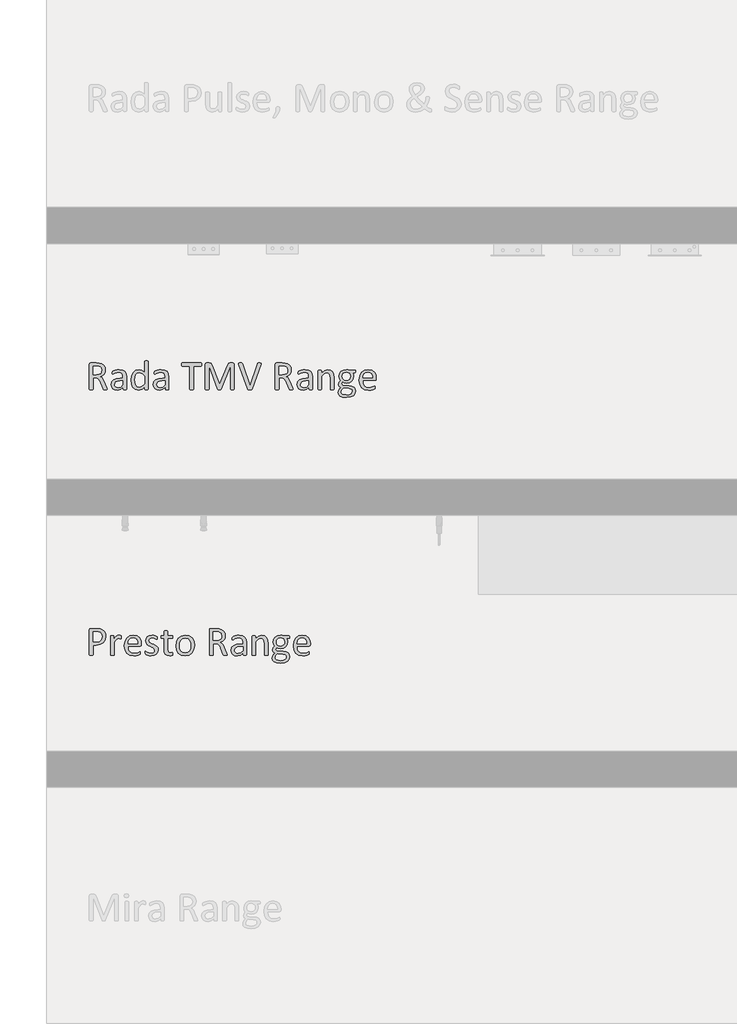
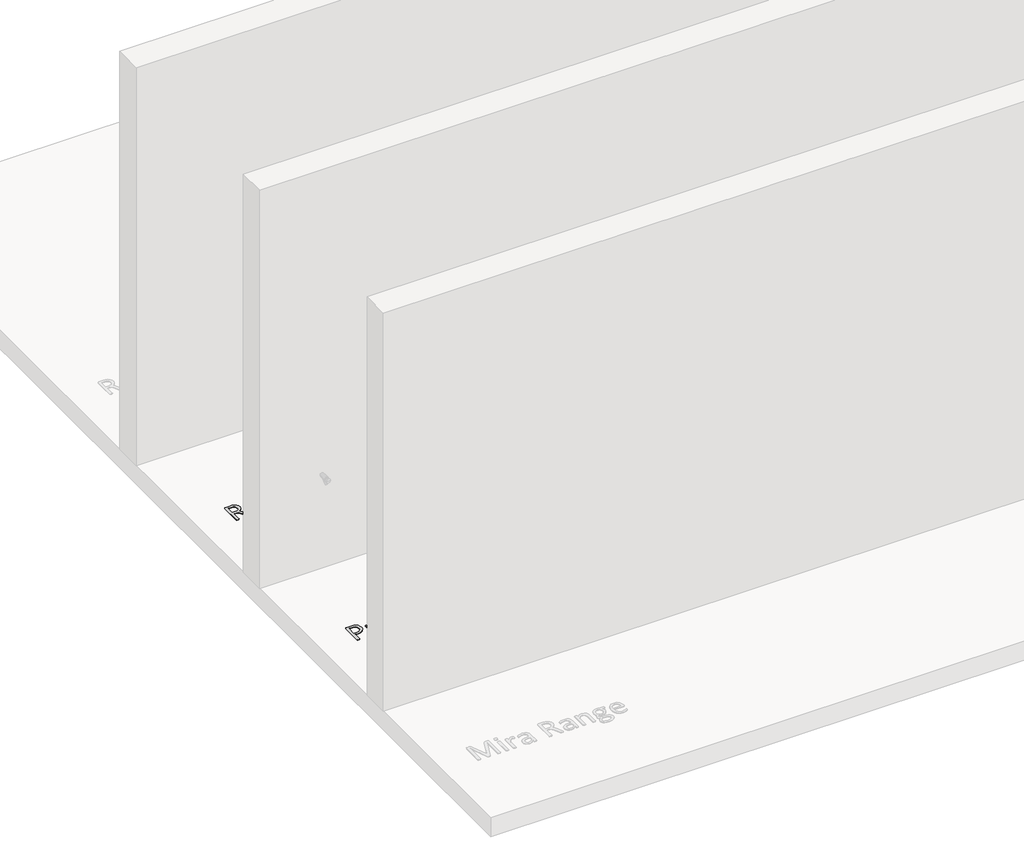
# One storey, part 2 of 3: 2 proxies.
"""IFC4 building model written with IfcOpenShell, lengths in millimetres."""

from ifc_helpers import new_model, si_unit, origin, origin_with_axes, place, context, project, spatial, polyline, outline, extrude, element, save

model = new_model("IFC4")

# Units and contexts
model_context = context("Model", 3, world=origin())
ifc_project = project(units=[si_unit("LENGTHUNIT", "METRE", prefix="MILLI")], contexts=[model_context])

# Site, building, storey
site = spatial("IfcSite", under=ifc_project)
building = spatial("IfcBuilding", under=site)
storey = spatial("IfcBuildingStorey", under=building, Name="1 Coarse & Medium", Elevation=0.0)

# Proxies
placement = place(None, origin())
element("IfcBuildingElementProxy", 1, Name="200mm Arial", ObjectType="200mm Arial", at=placement, inside=storey, context=model_context, shape_type="SweptSolid", body=[
    extrude(outline(polyline([(-2097.5056259, -8957.1511378), (-2101.7064456, -8980.050728), (-2113.74538, -8997.443146), (-2132.9564456, -9008.5599493), (-2160.1080849, -9012.4790067), (-2179.472839, -9012.4790067), (-2179.472839, -9073.8519575), (-2180.0619784, -9075.6706051), (-2181.9318554, -9076.925728), (-2185.415462, -9077.7197854), (-2190.9482489, -9078.0527772), (-2196.4810358, -9077.7197854), (-2200.0158718, -9076.925728), (-2201.8857489, -9075.6962198), (-2202.4236587, -9073.8519575), (-2202.4236587, -8917.243351), (-2199.6572653, -8909.7894575), (-2193.4584948, -8907.5609739), (-2156.8806259, -8907.5609739), (-2146.2761177, -8908.0220395), (-2134.2627981, -8909.9943755), (-2120.1234538, -8915.6040067), (-2107.9308308, -8925.7218346), (-2100.2207899, -8939.6562608), (-2097.5056259, -8957.1511378)]), holes=[polyline([(-2120.4564456, -8958.9441706), (-2124.4011177, -8942.2689657), (-2134.160339, -8932.3048264), (-2146.1736587, -8928.1296214), (-2158.2638227, -8927.2331051), (-2179.472839, -8927.2331051), (-2179.472839, -8992.8068755), (-2158.7761177, -8992.8068755), (-2141.4861587, -8990.2710149), (-2129.9339046, -8983.2525723), (-2122.8642325, -8972.5199903), (-2120.4564456, -8958.9441706)])]), origin_with_axes(), (0.0, 0.0, 1.0), 5.0),
    extrude(outline(polyline([(-1999.1449702, -8963.2986788), (-1999.273044, -8967.9605641), (-1999.785339, -8970.9831051), (-2000.7330849, -8972.6992936), (-2002.3211997, -8973.2884329), (-2004.8058308, -8972.6992936), (-2008.1101341, -8971.5210149), (-2012.2341095, -8970.3939657), (-2017.1777571, -8969.8560559), (-2023.4277571, -8971.2648674), (-2029.8570604, -8975.8755231), (-2036.9011177, -8984.3796214), (-2045.0466095, -8997.3663018), (-2045.0466095, -9074.0568755), (-2045.6101341, -9075.7986788), (-2047.4287817, -9077.028187), (-2050.8867735, -9077.7966296), (-2056.5732489, -9078.0527772), (-2062.1572653, -9077.7966296), (-2065.6921013, -9077.028187), (-2067.5107489, -9075.7986788), (-2067.9974292, -9074.0568755), (-2067.9974292, -8957.4585149), (-2067.5875931, -8955.7167116), (-2065.9226341, -8954.4359739), (-2062.7207899, -8953.6675313), (-2057.5466095, -8953.4626133), (-2052.4748882, -8953.6675313), (-2049.3498882, -8954.4359739), (-2047.7361587, -8955.7167116), (-2047.2494784, -8957.4585149), (-2047.2494784, -8974.4667116), (-2038.3867735, -8962.3253182), (-2030.523044, -8954.9226542), (-2023.1972243, -8951.2085149), (-2015.8457899, -8950.1839247), (-2012.1060358, -8950.363228), (-2007.7002981, -8951.0548264), (-2003.5507079, -8952.2074903), (-2000.938003, -8953.4626133), (-1999.1961997, -8958.6880231), (-1999.1449702, -8963.2986788)])), origin_with_axes(), (0.0, 0.0, 1.0), 5.0),
    extrude(outline(polyline([(-1871.2761177, -9009.6613837), (-1873.8119784, -9016.8847444), (-1879.6265276, -9019.0363837), (-1956.5220194, -9019.0363837), (-1954.6009128, -9037.9913018), (-1948.222839, -9052.4380231), (-1936.5937407, -9061.7105641), (-1919.0732489, -9064.9380231), (-1904.5240686, -9063.4267526), (-1893.4584948, -9060.0199903), (-1885.7996833, -9056.613228), (-1881.2658718, -9055.1019575), (-1879.6777571, -9055.5374083), (-1878.5763227, -9056.818146), (-1878.0127981, -9059.2003182), (-1877.8334948, -9062.9400723), (-1877.9615686, -9065.680851), (-1878.2945604, -9067.755646), (-1878.9349292, -9069.4206051), (-1880.0875931, -9070.8294165), (-1884.2627981, -9073.3140477), (-1893.2535768, -9076.8488837), (-1906.0609538, -9079.948269), (-1921.5834948, -9081.3314657), (-1946.6091095, -9077.2331051), (-1964.6675112, -9065.0404821), (-1975.7330849, -9044.7279821), (-1979.472839, -9016.3724493), (-1975.5537817, -8988.7085149), (-1964.2576751, -8967.9093346), (-1946.4298063, -8954.7689657), (-1923.017921, -8950.1839247), (-1899.4523472, -8954.6152772), (-1883.4431259, -8966.5517526), (-1874.2218145, -8984.1490887), (-1871.2761177, -9005.7167116), (-1871.2761177, -9009.6613837)]), holes=[polyline([(-1894.2269374, -9002.6429411), (-1895.8854927, -8987.6006768), (-1901.5783718, -8976.1829001), (-1911.1646936, -8968.9787505), (-1924.5035768, -8966.5773674), (-1938.1562407, -8969.5486788), (-1947.9666915, -8977.4636378), (-1954.0886177, -8988.9646624), (-1956.5220194, -9002.6429411), (-1894.2269374, -9002.6429411)])]), origin_with_axes(), (0.0, 0.0, 1.0), 5.0),
    extrude(outline(polyline([(-1763.0793964, -9043.0117936), (-1766.4861587, -9059.3283919), (-1776.1941505, -9071.3929411), (-1791.1787817, -9078.8212198), (-1810.313003, -9081.3314657), (-1822.5824702, -9080.153187), (-1833.0076751, -9077.1562608), (-1840.8201751, -9073.3652772), (-1845.5076751, -9069.8048264), (-1847.6593145, -9066.0394575), (-1848.3252981, -9060.0712198), (-1848.0691505, -9056.2033919), (-1847.4031669, -9053.6675313), (-1846.2761177, -9052.2587198), (-1844.6367735, -9051.823269), (-1840.3847243, -9053.8724493), (-1833.4175112, -9058.380646), (-1823.6070604, -9062.8888428), (-1810.62038, -9064.9380231), (-1800.6306259, -9063.6829001), (-1792.8693554, -9059.9687608), (-1787.7976341, -9053.7187608), (-1786.0302161, -9044.7535969), (-1788.5660768, -9036.2751133), (-1795.3027571, -9030.153187), (-1804.7033718, -9025.4400723), (-1815.4615686, -9021.1367936), (-1826.2966095, -9016.0394575), (-1835.7740686, -9009.0722444), (-1842.5107489, -8999.2617936), (-1845.0466095, -8985.5835149), (-1842.3314456, -8972.135769), (-1834.1859538, -8960.8652772), (-1820.6101341, -8953.1040067), (-1801.5527571, -8950.1839247), (-1792.0240686, -8951.0548264), (-1783.4175112, -8953.2576952), (-1776.8601341, -8956.1265477), (-1772.7617735, -8958.8417116), (-1770.9175112, -8960.7884329), (-1770.2515276, -8962.4790067), (-1769.8416915, -8964.8099493), (-1769.6367735, -8968.2167116), (-1769.8416915, -8971.930851), (-1770.5076751, -8974.5179411), (-1771.660339, -8975.9779821), (-1776.7064456, -8974.8509329), (-1782.6746833, -8971.4954001), (-1791.2812407, -8968.1398674), (-1802.5773472, -8966.5773674), (-1812.6183308, -8967.8837198), (-1819.7392325, -8971.5978592), (-1823.9400522, -8977.2843346), (-1825.3744784, -8984.4052362), (-1822.6593145, -8993.0886378), (-1815.5640276, -8999.2617936), (-1805.5998882, -9004.0261378), (-1794.2269374, -9008.380646), (-1782.7771423, -9013.4267526), (-1772.7617735, -9020.1890477), (-1765.7433308, -9029.743351), (-1763.0793964, -9043.0117936)])), origin_with_axes(), (0.0, 0.0, 1.0), 5.0),
    extrude(outline(polyline([(-1671.2761177, -9066.2699903), (-1671.7884128, -9072.6736788), (-1673.3509128, -9076.1572854), (-1676.4759128, -9078.2576952), (-1681.2146423, -9079.8714247), (-1686.875503, -9080.9216296), (-1692.8437407, -9081.3314657), (-1708.4431259, -9078.8468346), (-1719.0732489, -9071.3417116), (-1725.1183308, -9058.6111788), (-1727.0138227, -9040.3990887), (-1727.0138227, -8969.8560559), (-1742.5875931, -8969.8560559), (-1745.5845194, -8967.9349493), (-1746.6859538, -8961.7105641), (-1746.3785768, -8957.8939657), (-1745.5845194, -8955.3068755), (-1744.2781669, -8953.8724493), (-1742.4851341, -8953.4626133), (-1727.0138227, -8953.4626133), (-1727.0138227, -8924.9277772), (-1726.5271423, -8923.2115887), (-1724.7084948, -8921.8027772), (-1721.1736587, -8920.9318755), (-1715.5896423, -8920.675728), (-1709.9031669, -8920.9318755), (-1706.4451751, -8921.8027772), (-1704.6265276, -8923.2115887), (-1704.063003, -8924.9277772), (-1704.063003, -8953.4626133), (-1675.3744784, -8953.4626133), (-1673.6582899, -8953.8724493), (-1672.3519374, -8955.3068755), (-1671.5322653, -8957.8939657), (-1671.2761177, -8961.7105641), (-1672.4031669, -8967.9349493), (-1675.3744784, -8969.8560559), (-1704.063003, -8969.8560559), (-1704.063003, -9036.6593346), (-1700.6562407, -9055.3324903), (-1695.8983001, -9060.0776235), (-1688.438003, -9061.6593346), (-1683.3406669, -9061.0701952), (-1679.37038, -9059.840687), (-1676.3734538, -9058.5855641), (-1674.1449702, -9057.97081), (-1671.5322653, -9062.1204001), (-1671.2761177, -9066.2699903)])), origin_with_axes(), (0.0, 0.0, 1.0), 5.0),
    extrude(outline(polyline([(-1533.5711997, -9014.4769575), (-1537.3621833, -9041.3468346), (-1548.7095194, -9062.5046214), (-1567.6132079, -9076.3622034), (-1593.9195604, -9081.3314657), (-1619.2781669, -9076.9513428), (-1637.3109538, -9064.22081), (-1648.0691505, -9043.9339247), (-1651.6039866, -9016.8847444), (-1647.8642325, -8990.0148674), (-1636.5937407, -8968.8826952), (-1617.7668964, -8955.1019575), (-1591.4093145, -8950.1839247), (-1566.0250931, -8954.5640477), (-1547.9923063, -8967.2945805), (-1537.18288, -8987.5814657), (-1533.5711997, -9014.4769575)]), holes=[polyline([(-1556.5220194, -9016.0138428), (-1558.2894374, -8998.2115887), (-1564.1039866, -8983.5087198), (-1575.0414866, -8973.5189657), (-1592.2802161, -8969.8560559), (-1608.648044, -8973.2115887), (-1619.9185358, -8982.6890477), (-1626.5015276, -8997.1869985), (-1628.6531669, -9015.5015477), (-1626.8857489, -9033.4062608), (-1621.0199702, -9048.0579001), (-1610.0056259, -9057.9964247), (-1592.7925112, -9061.6593346), (-1576.4759128, -9058.3038018), (-1565.1285768, -9048.903187), (-1558.5968145, -9034.4564657), (-1556.5220194, -9016.0138428)])]), origin_with_axes(), (0.0, 0.0, 1.0), 5.0),
    extrude(outline(polyline([(-1325.938003, -9073.903187), (-1326.3222243, -9075.6962198), (-1328.0127981, -9077.0025723), (-1331.7013227, -9077.7966296), (-1338.0281669, -9078.0527772), (-1343.5865686, -9077.7966296), (-1347.0701751, -9076.9513428), (-1349.0937407, -9075.3376133), (-1350.3232489, -9072.7249083), (-1365.9482489, -9033.278187), (-1371.6091095, -9020.9318755), (-1378.4738636, -9011.2238837), (-1387.8232489, -9004.8970395), (-1400.7843145, -9002.6429411), (-1415.5384128, -9002.6429411), (-1415.5384128, -9073.903187), (-1416.1275522, -9075.7218346), (-1417.9974292, -9076.9513428), (-1421.4810358, -9077.7197854), (-1427.0138227, -9078.0527772), (-1432.5466095, -9077.7197854), (-1436.0814456, -9076.925728), (-1437.9513227, -9075.6962198), (-1438.4892325, -9073.8519575), (-1438.4892325, -8916.7310559), (-1435.8509128, -8909.5845395), (-1430.1900522, -8907.5609739), (-1394.6367735, -8907.5609739), (-1384.1347243, -8907.8939657), (-1376.5527571, -8908.6367936), (-1359.4164866, -8914.0158919), (-1346.9164866, -8923.3908919), (-1339.3601341, -8936.403187), (-1336.8498882, -8952.5404821), (-1339.0783718, -8967.9093346), (-1345.5332899, -8979.9226542), (-1355.6511177, -8988.9390477), (-1368.8683308, -8995.4195805), (-1361.2351341, -9000.055851), (-1354.8570604, -9006.7669165), (-1349.2986587, -9015.7576952), (-1344.0220194, -9027.2331051), (-1328.8068554, -9064.3744985), (-1326.4502981, -9070.9318755), (-1325.938003, -9073.903187)]), holes=[polyline([(-1359.8007079, -8954.9994985), (-1364.1808308, -8938.5548264), (-1370.0530132, -8932.7786993), (-1378.9093145, -8928.8724493), (-1386.1839046, -8927.6173264), (-1396.8396423, -8927.2331051), (-1415.5384128, -8927.2331051), (-1415.5384128, -8982.97081), (-1393.8683308, -8982.97081), (-1378.7043964, -8980.8704001), (-1368.0486587, -8974.9790067), (-1361.7986587, -8966.090687), (-1359.8007079, -8954.9994985)])]), origin_with_axes(), (0.0, 0.0, 1.0), 5.0),
    extrude(outline(polyline([(-1202.4236587, -9074.1081051), (-1203.5507079, -9076.4902772), (-1206.6244784, -9077.6685559), (-1212.3621833, -9078.0527772), (-1218.1767325, -9077.6685559), (-1221.3273472, -9076.4902772), (-1222.3007079, -9074.1081051), (-1222.3007079, -9062.3253182), (-1239.5650522, -9075.9523674), (-1259.7494784, -9081.3314657), (-1276.6808308, -9078.8980641), (-1289.5650522, -9071.8540067), (-1297.8386177, -9060.5322854), (-1300.7843145, -9045.2658919), (-1296.7115686, -9027.8990887), (-1285.0312407, -9015.6552362), (-1266.4093145, -9008.3550313), (-1241.6142325, -9005.9216296), (-1225.3744784, -9005.9216296), (-1225.3744784, -8996.1367936), (-1226.8089046, -8983.3294165), (-1231.4195604, -8974.0568755), (-1239.6418964, -8968.4728592), (-1252.0650522, -8966.5773674), (-1266.2812407, -8968.6265477), (-1277.2955849, -8973.1347444), (-1285.210544, -8977.6429411), (-1289.9236587, -8979.6921214), (-1291.767921, -8979.1542116), (-1293.125503, -8977.5148674), (-1293.9707899, -8974.6972444), (-1294.2269374, -8970.9318755), (-1293.7658718, -8965.5527772), (-1291.5117735, -8961.7874083), (-1285.3642325, -8957.9451952), (-1275.3232489, -8954.1542116), (-1262.9000931, -8951.3109739), (-1249.2986587, -8950.1839247), (-1227.5261177, -8953.0783919), (-1213.0025522, -8961.5312608), (-1204.9339046, -8975.3376133), (-1202.4236587, -8994.5999083), (-1202.4236587, -9074.1081051)]), holes=[polyline([(-1225.3744784, -9022.3150723), (-1243.6121833, -9022.3150723), (-1258.8273472, -9023.8263428), (-1269.5599292, -9028.28331), (-1275.835544, -9035.3529821), (-1277.8334948, -9044.8560559), (-1276.3990686, -9053.1296214), (-1272.0957899, -9059.5076952), (-1265.205421, -9063.5804411), (-1256.0097243, -9064.9380231), (-1240.4359538, -9060.6091296), (-1225.3744784, -9047.3663018), (-1225.3744784, -9022.3150723)])]), origin_with_axes(), (0.0, 0.0, 1.0), 5.0),
    extrude(outline(polyline([(-1064.7187407, -9074.005646), (-1065.2822653, -9075.7474493), (-1067.1009128, -9077.0025723), (-1070.5589046, -9077.7966296), (-1076.142921, -9078.0527772), (-1081.8293964, -9077.7966296), (-1085.2873882, -9077.028187), (-1087.1060358, -9075.7986788), (-1087.6695604, -9074.005646), (-1087.6695604, -9005.5630231), (-1089.1808308, -8989.4769575), (-1093.5609538, -8978.9492936), (-1101.0148472, -8972.1869985), (-1111.5937407, -8969.8560559), (-1127.1418964, -8975.568146), (-1143.4072653, -8992.34581), (-1143.4072653, -9074.005646), (-1143.9707899, -9075.7986788), (-1145.7894374, -9077.028187), (-1149.2474292, -9077.7966296), (-1154.9339046, -9078.0527772), (-1160.517921, -9077.7966296), (-1164.0527571, -9077.028187), (-1165.8714046, -9075.7986788), (-1166.3580849, -9074.0568755), (-1166.3580849, -8957.4585149), (-1165.9482489, -8955.7167116), (-1164.2832899, -8954.4359739), (-1161.0814456, -8953.6675313), (-1155.9072653, -8953.4626133), (-1150.835544, -8953.6675313), (-1147.710544, -8954.4359739), (-1146.0968145, -8955.7167116), (-1145.6101341, -8957.4585149), (-1145.6101341, -8972.8785969), (-1126.0148472, -8955.6398674), (-1106.3171013, -8950.1839247), (-1086.7474292, -8954.1798264), (-1073.8888227, -8964.8611788), (-1066.8447653, -8980.5117936), (-1064.7187407, -9002.0794165), (-1064.7187407, -9074.005646)])), origin_with_axes(), (0.0, 0.0, 1.0), 5.0),
    extrude(outline(polyline([(-927.0138227, -8961.7105641), (-928.2689456, -8967.9349493), (-931.4707899, -8969.8560559), (-948.4277571, -8969.8560559), (-941.972839, -8980.4605641), (-940.1285768, -8992.4994985), (-943.4072653, -9010.7372034), (-952.80788, -9024.1593346), (-967.3570604, -9032.5353592), (-986.0302161, -9035.4298264), (-999.785339, -9033.5087198), (-1009.8519374, -9028.6675313), (-1013.9502981, -9034.0210149), (-1015.5384128, -9040.9626133), (-1011.1839046, -9048.5445805), (-999.6060358, -9051.823269), (-968.1511177, -9053.1552362), (-951.6552161, -9055.6398674), (-938.6685358, -9061.9667116), (-930.0875931, -9072.03331), (-927.0138227, -9085.8908919), (-930.4461997, -9101.7464247), (-940.9738636, -9114.9636378), (-959.05788, -9123.9544165), (-985.0056259, -9127.2331051), (-1009.5701751, -9124.7740887), (-1026.1685358, -9118.0630231), (-1035.5691505, -9107.8939657), (-1038.4892325, -9095.1122034), (-1037.4390276, -9086.5824903), (-1034.2115686, -9078.7443755), (-1028.8324702, -9071.6490887), (-1021.4298063, -9064.9380231), (-1031.8293964, -9056.510769), (-1035.210544, -9045.5220395), (-1031.7269374, -9030.9472444), (-1023.12038, -9019.4462198), (-1029.5752981, -9008.4318755), (-1031.9318554, -8993.5240887), (-1028.5250931, -8975.3119985), (-1019.0476341, -8961.6849493), (-1004.4984538, -8953.1552362), (-986.0302161, -8950.1839247), (-975.9892325, -8951.0548264), (-967.2289866, -8953.4626133), (-931.4707899, -8953.4626133), (-928.1408718, -8955.4861788), (-927.0138227, -8961.7105641)]), holes=[polyline([(-959.8007079, -8992.653187), (-961.5297038, -8981.7092833), (-966.7166915, -8973.4677362), (-975.0927161, -8968.2999596), (-986.3888227, -8966.5773674), (-997.813003, -8968.7290067), (-1005.9072653, -8974.6204001), (-1010.6972243, -8983.2525723), (-1012.2597243, -8993.4728592), (-1010.5307284, -9004.1285969), (-1005.3437407, -9012.2228592), (-997.0445604, -9017.3330026), (-985.9789866, -9019.0363837), (-974.3242735, -9016.9615887), (-966.1531669, -9011.198269), (-961.3632079, -9002.6941706), (-959.8007079, -8992.653187)]), polyline([(-949.9646423, -9086.6081051), (-951.5527571, -9079.3911481), (-956.3171013, -9074.0312608), (-973.4789866, -9069.3437608), (-1004.6265276, -9068.2167116), (-1011.6705849, -9074.8765477), (-1016.0250931, -9080.9216296), (-1018.227962, -9086.5824903), (-1018.8171013, -9092.34581), (-1016.6142325, -9100.3568243), (-1010.0056259, -9106.1521624), (-985.415462, -9110.8396624), (-968.6121833, -9108.8160969), (-957.7002981, -9103.4113837), (-951.7576751, -9095.7013428), (-949.9646423, -9086.6081051)])]), origin_with_axes(), (0.0, 0.0, 1.0), 5.0),
    extrude(outline(polyline([(-795.8662817, -9009.6613837), (-798.4021423, -9016.8847444), (-804.2166915, -9019.0363837), (-881.1121833, -9019.0363837), (-879.1910768, -9037.9913018), (-872.813003, -9052.4380231), (-861.1839046, -9061.7105641), (-843.6634128, -9064.9380231), (-829.1142325, -9063.4267526), (-818.0486587, -9060.0199903), (-810.3898472, -9056.613228), (-805.8560358, -9055.1019575), (-804.267921, -9055.5374083), (-803.1664866, -9056.818146), (-802.602962, -9059.2003182), (-802.4236587, -9062.9400723), (-802.5517325, -9065.680851), (-802.8847243, -9067.755646), (-803.5250931, -9069.4206051), (-804.6777571, -9070.8294165), (-808.852962, -9073.3140477), (-817.8437407, -9076.8488837), (-830.6511177, -9079.948269), (-846.1736587, -9081.3314657), (-871.1992735, -9077.2331051), (-889.2576751, -9065.0404821), (-900.3232489, -9044.7279821), (-904.063003, -9016.3724493), (-900.1439456, -8988.7085149), (-888.847839, -8967.9093346), (-871.0199702, -8954.7689657), (-847.6080849, -8950.1839247), (-824.0425112, -8954.6152772), (-808.0332899, -8966.5517526), (-798.8119784, -8984.1490887), (-795.8662817, -9005.7167116), (-795.8662817, -9009.6613837)]), holes=[polyline([(-818.8171013, -9002.6429411), (-820.4756567, -8987.6006768), (-826.1685358, -8976.1829001), (-835.7548575, -8968.9787505), (-849.0937407, -8966.5773674), (-862.7464046, -8969.5486788), (-872.5568554, -8977.4636378), (-878.6787817, -8988.9646624), (-881.1121833, -9002.6429411), (-818.8171013, -9002.6429411)])]), origin_with_axes(), (0.0, 0.0, 1.0), 5.0),
])
element("IfcBuildingElementProxy", 2, Name="200mm Arial", ObjectType="200mm Arial", at=placement, inside=storey, context=model_context, shape_type="SweptSolid", body=[
    extrude(outline(polyline([(-2089.8724292, -7383.903187), (-2090.2566505, -7385.6962198), (-2091.9472243, -7387.0025723), (-2095.6357489, -7387.7966296), (-2101.9625931, -7388.0527772), (-2107.5209948, -7387.7966296), (-2111.0046013, -7386.9513428), (-2113.0281669, -7385.3376133), (-2114.2576751, -7382.7249083), (-2129.8826751, -7343.278187), (-2135.5435358, -7330.9318755), (-2142.4082899, -7321.2238837), (-2151.7576751, -7314.8970395), (-2164.7187407, -7312.6429411), (-2179.472839, -7312.6429411), (-2179.472839, -7383.903187), (-2180.0619784, -7385.7218346), (-2181.9318554, -7386.9513428), (-2185.415462, -7387.7197854), (-2190.9482489, -7388.0527772), (-2196.4810358, -7387.7197854), (-2200.0158718, -7386.925728), (-2201.8857489, -7385.6962198), (-2202.4236587, -7383.8519575), (-2202.4236587, -7226.7310559), (-2199.785339, -7219.5845395), (-2194.1244784, -7217.5609739), (-2158.5711997, -7217.5609739), (-2148.0691505, -7217.8939657), (-2140.4871833, -7218.6367936), (-2123.3509128, -7224.0158919), (-2110.8509128, -7233.3908919), (-2103.2945604, -7246.403187), (-2100.7843145, -7262.5404821), (-2103.0127981, -7277.9093346), (-2109.4677161, -7289.9226542), (-2119.585544, -7298.9390477), (-2132.8027571, -7305.4195805), (-2125.1695604, -7310.055851), (-2118.7914866, -7316.7669165), (-2113.2330849, -7325.7576952), (-2107.9564456, -7337.2331051), (-2092.7412817, -7374.3744985), (-2090.3847243, -7380.9318755), (-2089.8724292, -7383.903187)]), holes=[polyline([(-2123.7351341, -7264.9994985), (-2128.1152571, -7248.5548264), (-2133.9874395, -7242.7786993), (-2142.8437407, -7238.8724493), (-2150.1183308, -7237.6173264), (-2160.7740686, -7237.2331051), (-2179.472839, -7237.2331051), (-2179.472839, -7292.97081), (-2157.8027571, -7292.97081), (-2142.6388227, -7290.8704001), (-2131.9830849, -7284.9790067), (-2125.7330849, -7276.090687), (-2123.7351341, -7264.9994985)])]), origin_with_axes(), (0.0, 0.0, 1.0), 5.0),
    extrude(outline(polyline([(-1966.3580849, -7384.1081051), (-1967.4851341, -7386.4902772), (-1970.5589046, -7387.6685559), (-1976.2966095, -7388.0527772), (-1982.1111587, -7387.6685559), (-1985.2617735, -7386.4902772), (-1986.2351341, -7384.1081051), (-1986.2351341, -7372.3253182), (-2003.4994784, -7385.9523674), (-2023.6839046, -7391.3314657), (-2040.6152571, -7388.8980641), (-2053.4994784, -7381.8540067), (-2061.773044, -7370.5322854), (-2064.7187407, -7355.2658919), (-2060.6459948, -7337.8990887), (-2048.9656669, -7325.6552362), (-2030.3437407, -7318.3550313), (-2005.5486587, -7315.9216296), (-1989.3089046, -7315.9216296), (-1989.3089046, -7306.1367936), (-1990.7433308, -7293.3294165), (-1995.3539866, -7284.0568755), (-2003.5763227, -7278.4728592), (-2015.9994784, -7276.5773674), (-2030.2156669, -7278.6265477), (-2041.2300112, -7283.1347444), (-2049.1449702, -7287.6429411), (-2053.8580849, -7289.6921214), (-2055.7023472, -7289.1542116), (-2057.0599292, -7287.5148674), (-2057.9052161, -7284.6972444), (-2058.1613636, -7280.9318755), (-2057.7002981, -7275.5527772), (-2055.4461997, -7271.7874083), (-2049.2986587, -7267.9451952), (-2039.2576751, -7264.1542116), (-2026.8345194, -7261.3109739), (-2013.2330849, -7260.1839247), (-1991.460544, -7263.0783919), (-1976.9369784, -7271.5312608), (-1968.8683308, -7285.3376133), (-1966.3580849, -7304.5999083), (-1966.3580849, -7384.1081051)]), holes=[polyline([(-1989.3089046, -7332.3150723), (-2007.5466095, -7332.3150723), (-2022.7617735, -7333.8263428), (-2033.4943554, -7338.28331), (-2039.7699702, -7345.3529821), (-2041.767921, -7354.8560559), (-2040.3334948, -7363.1296214), (-2036.0302161, -7369.5076952), (-2029.1398472, -7373.5804411), (-2019.9441505, -7374.9380231), (-2004.37038, -7370.6091296), (-1989.3089046, -7357.3663018), (-1989.3089046, -7332.3150723)])]), origin_with_axes(), (0.0, 0.0, 1.0), 5.0),
    extrude(outline(polyline([(-1828.6531669, -7383.9544165), (-1829.1398472, -7385.8242936), (-1830.8048063, -7387.0794165), (-1833.9041915, -7387.7966296), (-1838.5916915, -7388.0527772), (-1843.4584948, -7387.7966296), (-1846.6347243, -7387.130646), (-1848.4277571, -7385.9779821), (-1848.9912817, -7384.2617936), (-1848.9912817, -7369.7126133), (-1868.023044, -7385.6193755), (-1889.6162817, -7391.3314657), (-1911.4400522, -7386.2341296), (-1926.0660768, -7372.4533919), (-1934.2627981, -7352.0128182), (-1936.8498882, -7327.2945805), (-1933.6224292, -7299.5025723), (-1924.0937407, -7278.3447854), (-1908.4687407, -7264.8970395), (-1886.9011177, -7260.1839247), (-1868.2791915, -7264.7689657), (-1851.6039866, -7278.2167116), (-1851.6039866, -7208.698269), (-1851.1173063, -7206.9052362), (-1849.2474292, -7205.573269), (-1845.7125931, -7204.7792116), (-1840.2822653, -7204.4462198), (-1834.5957899, -7204.7792116), (-1831.1377981, -7205.573269), (-1829.267921, -7206.8796214), (-1828.6531669, -7208.6470395), (-1828.6531669, -7383.9544165)]), holes=[polyline([(-1851.6039866, -7301.5773674), (-1868.0486587, -7285.4144575), (-1884.5957899, -7279.8560559), (-1898.1716095, -7283.7494985), (-1907.2392325, -7294.0210149), (-1912.3109538, -7308.4677362), (-1913.8990686, -7324.8355641), (-1912.5671013, -7342.1511378), (-1907.9308308, -7357.1613837), (-1899.1705849, -7367.6890477), (-1885.4666915, -7371.6593346), (-1877.4236587, -7370.5066706), (-1869.4830849, -7366.6900723), (-1861.0046013, -7359.7740887), (-1851.6039866, -7349.2720395), (-1851.6039866, -7301.5773674)])]), origin_with_axes(), (0.0, 0.0, 1.0), 5.0),
    extrude(outline(polyline([(-1697.5056259, -7384.1081051), (-1698.6326751, -7386.4902772), (-1701.7064456, -7387.6685559), (-1707.4441505, -7388.0527772), (-1713.2586997, -7387.6685559), (-1716.4093145, -7386.4902772), (-1717.3826751, -7384.1081051), (-1717.3826751, -7372.3253182), (-1734.6470194, -7385.9523674), (-1754.8314456, -7391.3314657), (-1771.7627981, -7388.8980641), (-1784.6470194, -7381.8540067), (-1792.9205849, -7370.5322854), (-1795.8662817, -7355.2658919), (-1791.7935358, -7337.8990887), (-1780.1132079, -7325.6552362), (-1761.4912817, -7318.3550313), (-1736.6961997, -7315.9216296), (-1720.4564456, -7315.9216296), (-1720.4564456, -7306.1367936), (-1721.8908718, -7293.3294165), (-1726.5015276, -7284.0568755), (-1734.7238636, -7278.4728592), (-1747.1470194, -7276.5773674), (-1761.3632079, -7278.6265477), (-1772.3775522, -7283.1347444), (-1780.2925112, -7287.6429411), (-1785.0056259, -7289.6921214), (-1786.8498882, -7289.1542116), (-1788.2074702, -7287.5148674), (-1789.0527571, -7284.6972444), (-1789.3089046, -7280.9318755), (-1788.847839, -7275.5527772), (-1786.5937407, -7271.7874083), (-1780.4461997, -7267.9451952), (-1770.4052161, -7264.1542116), (-1757.9820604, -7261.3109739), (-1744.3806259, -7260.1839247), (-1722.6080849, -7263.0783919), (-1708.0845194, -7271.5312608), (-1700.0158718, -7285.3376133), (-1697.5056259, -7304.5999083), (-1697.5056259, -7384.1081051)]), holes=[polyline([(-1720.4564456, -7332.3150723), (-1738.6941505, -7332.3150723), (-1753.9093145, -7333.8263428), (-1764.6418964, -7338.28331), (-1770.9175112, -7345.3529821), (-1772.915462, -7354.8560559), (-1771.4810358, -7363.1296214), (-1767.1777571, -7369.5076952), (-1760.2873882, -7373.5804411), (-1751.0916915, -7374.9380231), (-1735.517921, -7370.6091296), (-1720.4564456, -7357.3663018), (-1720.4564456, -7332.3150723)])]), origin_with_axes(), (0.0, 0.0, 1.0), 5.0),
    extrude(outline(polyline([(-1487.6695604, -7227.550728), (-1487.9257079, -7231.9820805), (-1488.7709948, -7235.0046214), (-1490.2310358, -7236.6951952), (-1492.1265276, -7237.2331051), (-1540.1285768, -7237.2331051), (-1540.1285768, -7383.8519575), (-1540.6664866, -7385.6962198), (-1542.5363636, -7386.925728), (-1546.0711997, -7387.7197854), (-1551.6039866, -7388.0527772), (-1557.085544, -7387.7197854), (-1560.6716095, -7386.925728), (-1562.5414866, -7385.6962198), (-1563.0793964, -7383.8519575), (-1563.0793964, -7237.2331051), (-1611.0814456, -7237.2331051), (-1612.9769374, -7236.6951952), (-1614.3601341, -7235.0046214), (-1615.205421, -7231.9820805), (-1615.5384128, -7227.550728), (-1615.205421, -7223.0169165), (-1614.3345194, -7219.840687), (-1612.9513227, -7218.0988837), (-1611.0302161, -7217.5609739), (-1492.1777571, -7217.5609739), (-1490.2566505, -7218.0988837), (-1488.7966095, -7219.840687), (-1487.9257079, -7223.0169165), (-1487.6695604, -7227.550728)])), origin_with_axes(), (0.0, 0.0, 1.0), 5.0),
    extrude(outline(polyline([(-1281.1121833, -7383.8519575), (-1281.6500931, -7385.6962198), (-1283.5711997, -7386.925728), (-1287.080421, -7387.7197854), (-1292.6388227, -7388.0527772), (-1298.0947653, -7387.7197854), (-1301.6808308, -7386.925728), (-1303.5250931, -7385.6962198), (-1304.063003, -7383.8519575), (-1304.063003, -7236.0548264), (-1362.6695604, -7384.5179411), (-1363.7966095, -7386.0804411), (-1365.8970194, -7387.1818755), (-1369.1757079, -7387.8478592), (-1373.6839046, -7388.0527772), (-1378.4226341, -7387.7966296), (-1381.7269374, -7387.0794165), (-1383.7761177, -7385.9523674), (-1384.7494784, -7384.5179411), (-1441.665462, -7236.0548264), (-1441.665462, -7383.8519575), (-1442.3058308, -7385.6962198), (-1444.2269374, -7386.925728), (-1447.813003, -7387.7197854), (-1453.4482489, -7388.0527772), (-1458.9298063, -7387.7197854), (-1462.4390276, -7386.925728), (-1464.2320604, -7385.6962198), (-1464.7187407, -7383.8519575), (-1464.7187407, -7227.8068755), (-1461.773044, -7219.9175313), (-1455.1900522, -7217.5609739), (-1441.2043964, -7217.5609739), (-1433.6736587, -7218.3550313), (-1428.0384128, -7220.8396624), (-1424.0168964, -7225.1685559), (-1421.1736587, -7231.3417116), (-1372.915462, -7354.2413018), (-1323.222839, -7231.7003182), (-1319.99538, -7225.0148674), (-1316.1531669, -7220.6347444), (-1311.5168964, -7218.278187), (-1305.5998882, -7217.5609739), (-1290.9482489, -7217.5609739), (-1287.080421, -7218.1501133), (-1284.0066505, -7219.9943755), (-1281.9318554, -7223.1449903), (-1281.1121833, -7227.8068755), (-1281.1121833, -7383.8519575)])), origin_with_axes(), (0.0, 0.0, 1.0), 5.0),
    extrude(outline(polyline([(-1165.6921013, -7383.3396624), (-1167.1265276, -7385.6962198), (-1169.688003, -7387.130646), (-1173.8888227, -7387.8478592), (-1180.0875931, -7388.0527772), (-1185.1593145, -7387.9759329), (-1188.8990686, -7387.6429411), (-1191.5886177, -7387.0794165), (-1193.4841095, -7386.2341296), (-1194.7392325, -7384.9790067), (-1195.6101341, -7383.2372034), (-1251.142921, -7226.3212198), (-1252.2443554, -7221.6849493), (-1251.142921, -7218.9954001), (-1247.3263227, -7217.8171214), (-1240.2310358, -7217.5609739), (-1234.3908718, -7217.7658919), (-1231.0609538, -7218.4831051), (-1229.2935358, -7219.840687), (-1228.1408718, -7222.0179411), (-1179.472839, -7364.1798264), (-1132.085544, -7222.2740887), (-1131.1634128, -7219.9175313), (-1129.3447653, -7218.4831051), (-1125.6562407, -7217.7658919), (-1119.3293964, -7217.5609739), (-1112.9257079, -7217.8939657), (-1109.6982489, -7219.1234739), (-1109.0322653, -7221.7874083), (-1110.313003, -7226.4236788), (-1165.6921013, -7383.3396624)])), origin_with_axes(), (0.0, 0.0, 1.0), 5.0),
    extrude(outline(polyline([(-906.2658718, -7383.903187), (-906.6500931, -7385.6962198), (-908.3406669, -7387.0025723), (-912.0291915, -7387.7966296), (-918.3560358, -7388.0527772), (-923.9144374, -7387.7966296), (-927.398044, -7386.9513428), (-929.4216095, -7385.3376133), (-930.6511177, -7382.7249083), (-946.2761177, -7343.278187), (-951.9369784, -7330.9318755), (-958.8017325, -7321.2238837), (-968.1511177, -7314.8970395), (-981.1121833, -7312.6429411), (-995.8662817, -7312.6429411), (-995.8662817, -7383.903187), (-996.455421, -7385.7218346), (-998.3252981, -7386.9513428), (-1001.8089046, -7387.7197854), (-1007.3416915, -7388.0527772), (-1012.8744784, -7387.7197854), (-1016.4093145, -7386.925728), (-1018.2791915, -7385.6962198), (-1018.8171013, -7383.8519575), (-1018.8171013, -7226.7310559), (-1016.1787817, -7219.5845395), (-1010.517921, -7217.5609739), (-974.9646423, -7217.5609739), (-964.4625931, -7217.8939657), (-956.8806259, -7218.6367936), (-939.7443554, -7224.0158919), (-927.2443554, -7233.3908919), (-919.688003, -7246.403187), (-917.1777571, -7262.5404821), (-919.4062407, -7277.9093346), (-925.8611587, -7289.9226542), (-935.9789866, -7298.9390477), (-949.1961997, -7305.4195805), (-941.563003, -7310.055851), (-935.1849292, -7316.7669165), (-929.6265276, -7325.7576952), (-924.3498882, -7337.2331051), (-909.1347243, -7374.3744985), (-906.7781669, -7380.9318755), (-906.2658718, -7383.903187)]), holes=[polyline([(-940.1285768, -7264.9994985), (-944.5086997, -7248.5548264), (-950.3808821, -7242.7786993), (-959.2371833, -7238.8724493), (-966.5117735, -7237.6173264), (-977.1675112, -7237.2331051), (-995.8662817, -7237.2331051), (-995.8662817, -7292.97081), (-974.1961997, -7292.97081), (-959.0322653, -7290.8704001), (-948.3765276, -7284.9790067), (-942.1265276, -7276.090687), (-940.1285768, -7264.9994985)])]), origin_with_axes(), (0.0, 0.0, 1.0), 5.0),
    extrude(outline(polyline([(-782.7515276, -7384.1081051), (-783.8785768, -7386.4902772), (-786.9523472, -7387.6685559), (-792.6900522, -7388.0527772), (-798.5046013, -7387.6685559), (-801.6552161, -7386.4902772), (-802.6285768, -7384.1081051), (-802.6285768, -7372.3253182), (-819.892921, -7385.9523674), (-840.0773472, -7391.3314657), (-857.0086997, -7388.8980641), (-869.892921, -7381.8540067), (-878.1664866, -7370.5322854), (-881.1121833, -7355.2658919), (-877.0394374, -7337.8990887), (-865.3591095, -7325.6552362), (-846.7371833, -7318.3550313), (-821.9421013, -7315.9216296), (-805.7023472, -7315.9216296), (-805.7023472, -7306.1367936), (-807.1367735, -7293.3294165), (-811.7474292, -7284.0568755), (-819.9697653, -7278.4728592), (-832.392921, -7276.5773674), (-846.6091095, -7278.6265477), (-857.6234538, -7283.1347444), (-865.5384128, -7287.6429411), (-870.2515276, -7289.6921214), (-872.0957899, -7289.1542116), (-873.4533718, -7287.5148674), (-874.2986587, -7284.6972444), (-874.5548063, -7280.9318755), (-874.0937407, -7275.5527772), (-871.8396423, -7271.7874083), (-865.6921013, -7267.9451952), (-855.6511177, -7264.1542116), (-843.227962, -7261.3109739), (-829.6265276, -7260.1839247), (-807.8539866, -7263.0783919), (-793.330421, -7271.5312608), (-785.2617735, -7285.3376133), (-782.7515276, -7304.5999083), (-782.7515276, -7384.1081051)]), holes=[polyline([(-805.7023472, -7332.3150723), (-823.9400522, -7332.3150723), (-839.1552161, -7333.8263428), (-849.8877981, -7338.28331), (-856.1634128, -7345.3529821), (-858.1613636, -7354.8560559), (-856.7269374, -7363.1296214), (-852.4236587, -7369.5076952), (-845.5332899, -7373.5804411), (-836.3375931, -7374.9380231), (-820.7638227, -7370.6091296), (-805.7023472, -7357.3663018), (-805.7023472, -7332.3150723)])]), origin_with_axes(), (0.0, 0.0, 1.0), 5.0),
    extrude(outline(polyline([(-645.0466095, -7384.005646), (-645.6101341, -7385.7474493), (-647.4287817, -7387.0025723), (-650.8867735, -7387.7966296), (-656.4707899, -7388.0527772), (-662.1572653, -7387.7966296), (-665.6152571, -7387.028187), (-667.4339046, -7385.7986788), (-667.9974292, -7384.005646), (-667.9974292, -7315.5630231), (-669.5086997, -7299.4769575), (-673.8888227, -7288.9492936), (-681.3427161, -7282.1869985), (-691.9216095, -7279.8560559), (-707.4697653, -7285.568146), (-723.7351341, -7302.34581), (-723.7351341, -7384.005646), (-724.2986587, -7385.7986788), (-726.1173063, -7387.028187), (-729.5752981, -7387.7966296), (-735.2617735, -7388.0527772), (-740.8457899, -7387.7966296), (-744.3806259, -7387.028187), (-746.1992735, -7385.7986788), (-746.6859538, -7384.0568755), (-746.6859538, -7267.4585149), (-746.2761177, -7265.7167116), (-744.6111587, -7264.4359739), (-741.4093145, -7263.6675313), (-736.2351341, -7263.4626133), (-731.1634128, -7263.6675313), (-728.0384128, -7264.4359739), (-726.4246833, -7265.7167116), (-725.938003, -7267.4585149), (-725.938003, -7282.8785969), (-706.3427161, -7265.6398674), (-686.6449702, -7260.1839247), (-667.0752981, -7264.1798264), (-654.2166915, -7274.8611788), (-647.1726341, -7290.5117936), (-645.0466095, -7312.0794165), (-645.0466095, -7384.005646)])), origin_with_axes(), (0.0, 0.0, 1.0), 5.0),
    extrude(outline(polyline([(-507.3416915, -7271.7105641), (-508.5968145, -7277.9349493), (-511.7986587, -7279.8560559), (-528.7556259, -7279.8560559), (-522.3007079, -7290.4605641), (-520.4564456, -7302.4994985), (-523.7351341, -7320.7372034), (-533.1357489, -7334.1593346), (-547.6849292, -7342.5353592), (-566.3580849, -7345.4298264), (-580.1132079, -7343.5087198), (-590.1798063, -7338.6675313), (-594.2781669, -7344.0210149), (-595.8662817, -7350.9626133), (-591.5117735, -7358.5445805), (-579.9339046, -7361.823269), (-548.4789866, -7363.1552362), (-531.9830849, -7365.6398674), (-518.9964046, -7371.9667116), (-510.415462, -7382.03331), (-507.3416915, -7395.8908919), (-510.7740686, -7411.7464247), (-521.3017325, -7424.9636378), (-539.3857489, -7433.9544165), (-565.3334948, -7437.2331051), (-589.898044, -7434.7740887), (-606.4964046, -7428.0630231), (-615.8970194, -7417.8939657), (-618.8171013, -7405.1122034), (-617.7668964, -7396.5824903), (-614.5394374, -7388.7443755), (-609.160339, -7381.6490887), (-601.7576751, -7374.9380231), (-612.1572653, -7366.510769), (-615.5384128, -7355.5220395), (-612.0548063, -7340.9472444), (-603.4482489, -7329.4462198), (-609.9031669, -7318.4318755), (-612.2597243, -7303.5240887), (-608.852962, -7285.3119985), (-599.375503, -7271.6849493), (-584.8263227, -7263.1552362), (-566.3580849, -7260.1839247), (-556.3171013, -7261.0548264), (-547.5568554, -7263.4626133), (-511.7986587, -7263.4626133), (-508.4687407, -7265.4861788), (-507.3416915, -7271.7105641)]), holes=[polyline([(-540.1285768, -7302.653187), (-541.8575727, -7291.7092833), (-547.0445604, -7283.4677362), (-555.4205849, -7278.2999596), (-566.7166915, -7276.5773674), (-578.1408718, -7278.7290067), (-586.2351341, -7284.6204001), (-591.0250931, -7293.2525723), (-592.5875931, -7303.4728592), (-590.8585972, -7314.1285969), (-585.6716095, -7322.2228592), (-577.3724292, -7327.3330026), (-566.3068554, -7329.0363837), (-554.6521423, -7326.9615887), (-546.4810358, -7321.198269), (-541.6910768, -7312.6941706), (-540.1285768, -7302.653187)]), polyline([(-530.2925112, -7396.6081051), (-531.8806259, -7389.3911481), (-536.6449702, -7384.0312608), (-553.8068554, -7379.3437608), (-584.9543964, -7378.2167116), (-591.9984538, -7384.8765477), (-596.352962, -7390.9216296), (-598.5558308, -7396.5824903), (-599.1449702, -7402.34581), (-596.9421013, -7410.3568243), (-590.3334948, -7416.1521624), (-565.7433308, -7420.8396624), (-548.9400522, -7418.8160969), (-538.0281669, -7413.4113837), (-532.085544, -7405.7013428), (-530.2925112, -7396.6081051)])]), origin_with_axes(), (0.0, 0.0, 1.0), 5.0),
    extrude(outline(polyline([(-376.1941505, -7319.6613837), (-378.7300112, -7326.8847444), (-384.5445604, -7329.0363837), (-461.4400522, -7329.0363837), (-459.5189456, -7347.9913018), (-453.1408718, -7362.4380231), (-441.5117735, -7371.7105641), (-423.9912817, -7374.9380231), (-409.4421013, -7373.4267526), (-398.3765276, -7370.0199903), (-390.7177161, -7366.613228), (-386.1839046, -7365.1019575), (-384.5957899, -7365.5374083), (-383.4943554, -7366.818146), (-382.9308308, -7369.2003182), (-382.7515276, -7372.9400723), (-382.8796013, -7375.680851), (-383.2125931, -7377.755646), (-383.852962, -7379.4206051), (-385.0056259, -7380.8294165), (-389.1808308, -7383.3140477), (-398.1716095, -7386.8488837), (-410.9789866, -7389.948269), (-426.5015276, -7391.3314657), (-451.5271423, -7387.2331051), (-469.585544, -7375.0404821), (-480.6511177, -7354.7279821), (-484.3908718, -7326.3724493), (-480.4718145, -7298.7085149), (-469.1757079, -7277.9093346), (-451.347839, -7264.7689657), (-427.9359538, -7260.1839247), (-404.37038, -7264.6152772), (-388.3611587, -7276.5517526), (-379.1398472, -7294.1490887), (-376.1941505, -7315.7167116), (-376.1941505, -7319.6613837)]), holes=[polyline([(-399.1449702, -7312.6429411), (-400.8035255, -7297.6006768), (-406.4964046, -7286.1829001), (-416.0827263, -7278.9787505), (-429.4216095, -7276.5773674), (-443.0742735, -7279.5486788), (-452.8847243, -7287.4636378), (-459.0066505, -7298.9646624), (-461.4400522, -7312.6429411), (-399.1449702, -7312.6429411)])]), origin_with_axes(), (0.0, 0.0, 1.0), 5.0),
])

save(model, "model.ifc")
